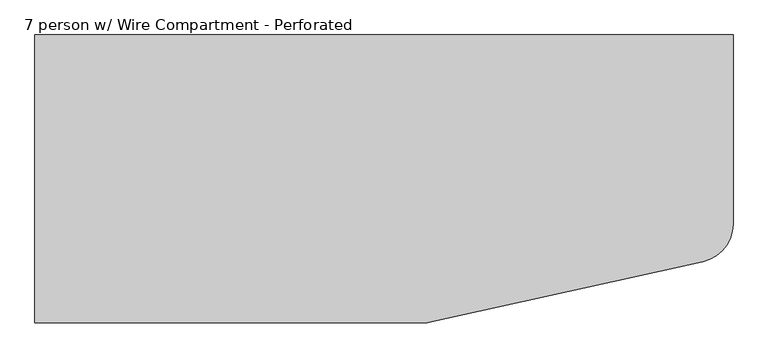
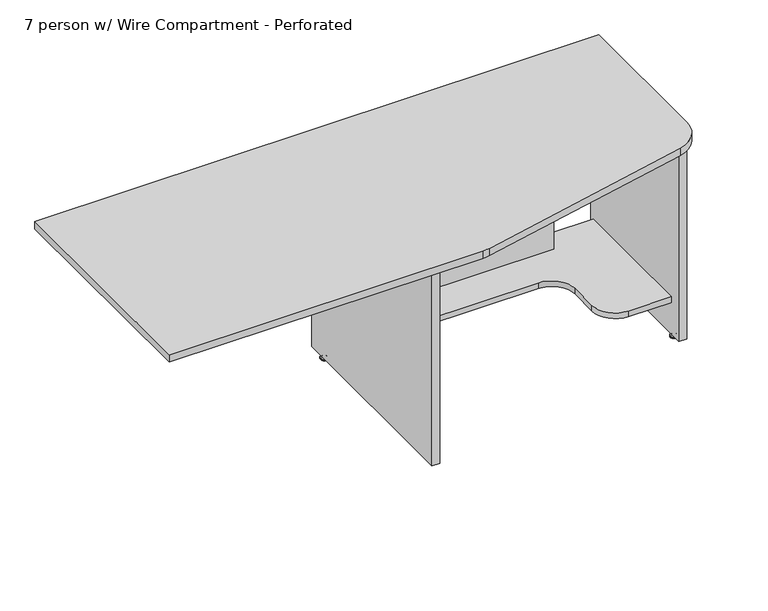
"""IFC4 building model written with IfcOpenShell, lengths in millimetres: furniture geometry, Nova Solutions - Collaboration Table - Boat_6-8 person : 7 person w/ Wire Compartment - Perforated."""

import ifcopenshell
import ifcopenshell.guid

model = None  # the IFC model being written
_history = None  # IfcOwnerHistory: only IFC2X3 demands one
_inside = {}  # id of a spatial element -> (the spatial element, [elements in it])
_under = {}  # id of a project, library or spatial element -> (it, [spatial elements below it])
_declared = {}  # id of a project -> (the project, [libraries it declares])
_typed = {}  # id of a type object -> (the type object, [elements of that type])
_made_of = {}  # id of a material, layer set ... -> (it, [elements and type objects made of it])


def new_model(schema):
    """Start an empty IFC model of exactly this schema.

    Asked for "IFC4X3", IfcOpenShell would pick the latest addendum, in which some entities
    have other attributes; the version numbers below select the first issue.
    IFC2X3 requires an IfcOwnerHistory on every rooted entity: one is made here for all.
    """
    global model, _history
    if schema == "IFC4X3":
        model = ifcopenshell.file(schema_version=(4, 3, 0, 0))
    else:
        model = ifcopenshell.file(schema=schema)
    _inside.clear()
    _under.clear()
    _declared.clear()
    _typed.clear()
    _made_of.clear()
    _history = None
    if model.schema == "IFC2X3":
        org = make("IfcOrganization", Name="unknown")
        user = make(
            "IfcPersonAndOrganization",
            ThePerson=make("IfcPerson", FamilyName="unknown"),
            TheOrganization=org,
        )
        app = make(
            "IfcApplication",
            ApplicationDeveloper=org,
            Version="unknown",
            ApplicationFullName="unknown",
            ApplicationIdentifier="unknown",
        )
        _history = make(
            "IfcOwnerHistory",
            OwningUser=user,
            OwningApplication=app,
            ChangeAction="ADDED",
            CreationDate=0,
        )
    return model


def make(cls, **values):
    """One entity of the class cls with the attributes given. An attribute that is None is left unset."""
    return model.create_entity(
        cls, **{name: value for name, value in values.items() if value is not None}
    )


def rooted(cls, **values):
    """An entity with a GlobalId (a new one), such as an element, a storey or a relation."""
    return make(cls, GlobalId=ifcopenshell.guid.new(), OwnerHistory=_history, **values)


def si_unit(unit_type, name, prefix=None):
    """IfcSIUnit, for example si_unit("LENGTHUNIT", "METRE", prefix="MILLI")."""
    return make("IfcSIUnit", UnitType=unit_type, Prefix=prefix, Name=name)


def assignment(units):
    """IfcUnitAssignment: the units of a project."""
    return None if units is None else make("IfcUnitAssignment", Units=units)


def point(xyz):
    """IfcCartesianPoint."""
    return None if xyz is None else make("IfcCartesianPoint", Coordinates=xyz)


def direction(xyz):
    """IfcDirection."""
    return None if xyz is None else make("IfcDirection", DirectionRatios=xyz)


def frame(location, z_axis=None, x_axis=None):
    """IfcAxis2Placement3D, a coordinate frame: its origin and axes. An axis left out is left unset."""
    return make(
        "IfcAxis2Placement3D",
        Location=point(location),
        Axis=direction(z_axis),
        RefDirection=direction(x_axis),
    )


def frame_2d(location, x_axis=None):
    """IfcAxis2Placement2D, a coordinate frame in the plane: its origin and x axis."""
    return make(
        "IfcAxis2Placement2D", Location=point(location), RefDirection=direction(x_axis)
    )


def origin():
    """The frame at (0, 0, 0) with its axes left unset."""
    return frame((0.0, 0.0, 0.0))


def place(relative_to, where):
    """IfcLocalPlacement: puts the frame where relative to a parent placement (None: the world)."""
    return make(
        "IfcLocalPlacement", PlacementRelTo=relative_to, RelativePlacement=where
    )


def context(
    kind, dimensions, precision=None, world=None, true_north=None, identifier=None
):
    """IfcGeometricRepresentationContext, for example the 3D "Model" context."""
    return make(
        "IfcGeometricRepresentationContext",
        ContextIdentifier=identifier,
        ContextType=kind,
        CoordinateSpaceDimension=dimensions,
        Precision=precision,
        WorldCoordinateSystem=world,
        TrueNorth=true_north,
    )


def project(units=None, contexts=None):
    """IfcProject with its units and contexts."""
    return rooted(
        "IfcProject",
        Name="project",
        RepresentationContexts=contexts,
        UnitsInContext=assignment(units),
    )


def spatial(cls, under=None, at=None, **own):
    """A site, building, storey or space (cls), placed at a placement, below another one or the project."""
    s = rooted(cls, ObjectPlacement=at, **own)
    if under is not None:
        _under.setdefault(under.id(), (under, []))[1].append(s)
    return s


def polyline(points):
    """IfcPolyline through the points."""
    return make("IfcPolyline", Points=[point(p) for p in points])


def circle_curve(where, radius):
    """IfcCircle in the frame where."""
    return make("IfcCircle", Position=where, Radius=radius)


def ellipse_curve(where, semi_axis1, semi_axis2):
    """IfcEllipse in the frame where."""
    return make(
        "IfcEllipse", Position=where, SemiAxis1=semi_axis1, SemiAxis2=semi_axis2
    )


def trimmed(basis, trim1, trim2, sense, master):
    """IfcTrimmedCurve: the piece of a basis curve between two trims."""
    return make(
        "IfcTrimmedCurve",
        BasisCurve=basis,
        Trim1=trim1,
        Trim2=trim2,
        SenseAgreement=sense,
        MasterRepresentation=master,
    )


def segment(curve, same_sense, transition):
    """IfcCompositeCurveSegment."""
    return make(
        "IfcCompositeCurveSegment",
        Transition=transition,
        SameSense=same_sense,
        ParentCurve=curve,
    )


def composite_curve(segments, self_intersect=None):
    """IfcCompositeCurve: segments joined end to end."""
    return make("IfcCompositeCurve", Segments=segments, SelfIntersect=self_intersect)


def outline(outer, holes=None, kind="AREA"):
    """IfcArbitraryClosedProfileDef: a profile drawn as a closed curve; with holes, ...WithVoids."""
    if holes is None:
        return make("IfcArbitraryClosedProfileDef", ProfileType=kind, OuterCurve=outer)
    return make(
        "IfcArbitraryProfileDefWithVoids",
        ProfileType=kind,
        OuterCurve=outer,
        InnerCurves=holes,
    )


def extrude(swept, where, along, depth):
    """IfcExtrudedAreaSolid: the profile swept, set in the frame where, extruded along a direction by depth."""
    return make(
        "IfcExtrudedAreaSolid",
        SweptArea=swept,
        Position=where,
        ExtrudedDirection=direction(along),
        Depth=depth,
    )


def shape(context_of_items, identifier, shape_type, items):
    """IfcShapeRepresentation: the items that make up one representation, for example the "Body"."""
    return make(
        "IfcShapeRepresentation",
        ContextOfItems=context_of_items,
        RepresentationIdentifier=identifier,
        RepresentationType=shape_type,
        Items=items,
    )


def source(mapping_origin, context_of_items, identifier, shape_type, items):
    """IfcRepresentationMap: a shape defined once, which mapped items show again and again."""
    return make(
        "IfcRepresentationMap",
        MappingOrigin=mapping_origin,
        MappedRepresentation=shape(context_of_items, identifier, shape_type, items),
    )


def transform(
    local_origin,
    x_axis=None,
    y_axis=None,
    z_axis=None,
    scale=None,
    scale2=None,
    scale3=None,
    uniform=True,
):
    """IfcCartesianTransformationOperator3D, or its non-uniform kind. x_axis, y_axis, z_axis: its Axis1, 2, 3."""
    if uniform:
        return make(
            "IfcCartesianTransformationOperator3D",
            Axis1=direction(x_axis),
            Axis2=direction(y_axis),
            LocalOrigin=point(local_origin),
            Scale=scale,
            Axis3=direction(z_axis),
        )
    return make(
        "IfcCartesianTransformationOperator3DnonUniform",
        Axis1=direction(x_axis),
        Axis2=direction(y_axis),
        LocalOrigin=point(local_origin),
        Scale=scale,
        Axis3=direction(z_axis),
        Scale2=scale2,
        Scale3=scale3,
    )


def mapped(mapping_source, mapping_target):
    """IfcMappedItem: shows the shape of a source again, moved by a transform."""
    return make(
        "IfcMappedItem", MappingSource=mapping_source, MappingTarget=mapping_target
    )


def made_of(thing, what):
    """Note that an element or type object is made of a material, layer set ...; save() writes the relation."""
    if what is not None:
        _made_of.setdefault(what.id(), (what, []))[1].append(thing)
    return thing


def element(
    cls,
    number,
    at=None,
    inside=None,
    cuts=None,
    type_object=None,
    material=None,
    context=None,
    identifier="Body",
    shape_type=None,
    held_by="IfcProductDefinitionShape",
    body=None,
    shapes=None,
    **own,
):
    """One element of the class cls, such as IfcWall. Its Tag is "e" and its number.

    at: its placement. inside: the storey or other place that contains it. cuts: it is an
    opening in that element (IfcRelVoidsElement). A single representation is given by context,
    identifier, shape_type and body (its items); several are given by shapes. held_by: the class
    of the entity that holds the representations. save() writes the other relations.
    """
    e = rooted(cls, Tag="e%d" % number, ObjectPlacement=at, **own)
    if body is not None:
        shapes = [shape(context, identifier, shape_type, body)]
    if shapes is not None:
        e.Representation = make(held_by, Representations=shapes)
    if inside is not None:
        _inside.setdefault(inside.id(), (inside, []))[1].append(e)
    if cuts is not None:
        rooted(
            "IfcRelVoidsElement", RelatingBuildingElement=cuts, RelatedOpeningElement=e
        )
    if type_object is not None:
        _typed.setdefault(type_object.id(), (type_object, []))[1].append(e)
    return made_of(e, material)


def aggregate(whole, parts):
    """IfcRelAggregates: a whole, such as a stair, and the parts it consists of."""
    return rooted("IfcRelAggregates", RelatingObject=whole, RelatedObjects=parts)


def save(model, path):
    """Write the relations noted so far, then the file.

    IfcRelAggregates (storeys below a building ...), IfcRelContainedInSpatialStructure (elements
    in a storey), IfcRelDefinesByType, IfcRelAssociatesMaterial and IfcRelDeclares: one each for
    every whole, place, type object, material and project.
    """
    for whole, parts in _under.values():
        aggregate(whole, parts)
    for where, things in _inside.values():
        rooted(
            "IfcRelContainedInSpatialStructure",
            RelatedElements=things,
            RelatingStructure=where,
        )
    for kind, things in _typed.values():
        rooted("IfcRelDefinesByType", RelatedObjects=things, RelatingType=kind)
    for what, things in _made_of.values():
        rooted("IfcRelAssociatesMaterial", RelatedObjects=things, RelatingMaterial=what)
    for by, libraries in _declared.values():
        rooted("IfcRelDeclares", RelatingContext=by, RelatedDefinitions=libraries)
    model.write(path)


def plane_surface(at):
    """IfcPlane: the flat surface through the origin of the frame at, square to its z axis."""
    return make("IfcPlane", Position=at)


def cylinder_surface(at, radius):
    """IfcCylindricalSurface: all points at the distance radius from the z axis of the frame at."""
    return make("IfcCylindricalSurface", Position=at, Radius=radius)


def revolved_surface(curve, axis_point, axis_direction):
    """IfcSurfaceOfRevolution: the curve turned about the line through axis_point along axis_direction."""
    return make(
        "IfcSurfaceOfRevolution",
        SweptCurve=make("IfcArbitraryOpenProfileDef", ProfileType="CURVE", Curve=curve),
        AxisPosition=make("IfcAxis1Placement", Location=point(axis_point), Axis=direction(axis_direction)),
    )


def advanced_brep(points, edges, surfaces, faces):
    """IfcAdvancedBrep: a solid bounded by faces that lie on surfaces and meet in shared edges.

    An edge is (start, end): straight between two places in points (the first is 0);
    or (start, end, curve); or (start, end, curve, False) where it runs against its curve.
    A face is (place in surfaces, loops), or (place, loops, False) where it looks against
    its surface's normal. A loop lists edges by number (the first is 1), with a minus sign
    where the edge is run from its end to its start. The first loop is the outer one.
    """
    corners = [point(p) for p in points]
    vertices = [make("IfcVertexPoint", VertexGeometry=c) for c in corners]
    made = []
    for start, end, *more in edges:
        made.append(
            make(
                "IfcEdgeCurve",
                EdgeStart=vertices[start],
                EdgeEnd=vertices[end],
                EdgeGeometry=more[0] if more else make("IfcPolyline", Points=[corners[start], corners[end]]),
                SameSense=more[1] if len(more) > 1 else True,
            )
        )
    hull = []
    for where, loops, *sense in faces:
        bounds = []
        for j, loop in enumerate(loops):
            ring = [make("IfcOrientedEdge", EdgeElement=made[abs(k) - 1], Orientation=k > 0) for k in loop]
            bounds.append(
                make(
                    "IfcFaceOuterBound" if j == 0 else "IfcFaceBound",
                    Bound=make("IfcEdgeLoop", EdgeList=ring),
                    Orientation=True,
                )
            )
        hull.append(make("IfcAdvancedFace", Bounds=bounds, FaceSurface=surfaces[where], SameSense=sense[0] if sense else True))
    return make("IfcAdvancedBrep", Outer=make("IfcClosedShell", CfsFaces=hull))


def furniture_7_person_w_wire_compartment_perforated_2ec6243c(model_context):
    return source(origin(), model_context, "Body", "SolidModel", [
        advanced_brep(
        [(6.6776506, -50.4140625, 11.1125), (-6.6776506, -50.4140625, 11.1125), (0.0, -50.4140625, 11.1125), (6.6776506, -50.4140625, 9.525), (-6.6776506, -50.4140625, 9.525), (11.8855135, -50.4140625, 4.7748687), (-11.8855135, -50.4140625, 4.7748687), (12.7466506, -50.4140625, 3.989419), (-12.7466506, -50.4140625, 3.989419), (12.7466506, -50.4140625, 3.175), (-12.7466506, -50.4140625, 3.175), (11.8959119, -50.4140625, 0.0), (-11.8959119, -50.4140625, 0.0), (0.0, -50.4140625, 0.0)],
        [
            (0, 1, circle_curve(frame((0.0, -50.4140625, 11.1125), z_axis=(0.0, 0.0, 1.0), x_axis=(-1.0, 0.0, 0.0)), 6.6776506)),
            (1, 2),
            (2, 0),
            (1, 0, circle_curve(frame((0.0, -50.4140625, 11.1125), z_axis=(0.0, 0.0, 1.0), x_axis=(-1.0, 0.0, 0.0)), 6.6776506)),
            (3, 4, circle_curve(frame((0.0, -50.4140625, 9.525), z_axis=(0.0, 0.0, 1.0), x_axis=(-1.0, 0.0, 0.0)), 6.6776506)),
            (4, 1),
            (0, 3),
            (4, 3, circle_curve(frame((0.0, -50.4140625, 9.525), z_axis=(0.0, 0.0, 1.0), x_axis=(-1.0, 0.0, 0.0)), 6.6776506)),
            (5, 6, circle_curve(frame((0.0, -50.4140625, 4.7748687), z_axis=(0.0, 0.0, 1.0), x_axis=(-1.0, 0.0, 0.0)), 11.8855135)),
            (6, 4, circle_curve(frame((-12.9320627, -50.4140625, 11.1521822), z_axis=(0.0, -1.0, 0.0), x_axis=(1.0, 0.0, 0.0)), 6.462615)),
            (3, 5, circle_curve(frame((12.9320627, -50.4140625, 11.1521822), z_axis=(0.0, -1.0, 0.0), x_axis=(-1.0, 0.0, 0.0)), 6.462615)),
            (6, 5, circle_curve(frame((0.0, -50.4140625, 4.7748687), z_axis=(0.0, 0.0, 1.0), x_axis=(-1.0, 0.0, 0.0)), 11.8855135)),
            (7, 8, circle_curve(frame((0.0, -50.4140625, 3.989419), z_axis=(0.0, 0.0, 1.0), x_axis=(-1.0, 0.0, 0.0)), 12.7466506)),
            (8, 6, circle_curve(frame((-11.7124632, -50.4140625, 3.7203591), z_axis=(0.0, 1.0, 0.0), x_axis=(1.0, 0.0, 0.0)), 1.0686145)),
            (5, 7, circle_curve(frame((11.7124632, -50.4140625, 3.7203591), z_axis=(0.0, 1.0, 0.0), x_axis=(-1.0, 0.0, 0.0)), 1.0686145)),
            (8, 7, circle_curve(frame((0.0, -50.4140625, 3.989419), z_axis=(0.0, 0.0, 1.0), x_axis=(-1.0, 0.0, 0.0)), 12.7466506)),
            (9, 10, circle_curve(frame((0.0, -50.4140625, 3.175), z_axis=(0.0, 0.0, 1.0), x_axis=(-1.0, 0.0, 0.0)), 12.7466506)),
            (10, 8),
            (7, 9),
            (10, 9, circle_curve(frame((0.0, -50.4140625, 3.175), z_axis=(0.0, 0.0, 1.0), x_axis=(-1.0, 0.0, 0.0)), 12.7466506)),
            (11, 12, circle_curve(frame((0.0, -50.4140625, 0.0), z_axis=(0.0, 0.0, 1.0), x_axis=(-1.0, 0.0, 0.0)), 11.8959119)),
            (12, 10),
            (9, 11),
            (12, 11, circle_curve(frame((0.0, -50.4140625, 0.0), z_axis=(0.0, 0.0, 1.0), x_axis=(-1.0, 0.0, 0.0)), 11.8959119)),
            (13, 12),
            (11, 13),
        ],
        [
            plane_surface(frame((0.0, -50.4140625, 11.1125), z_axis=(0.0, 0.0, 1.0), x_axis=(-1.0, 0.0, 0.0))),
            cylinder_surface(frame((0.0, -50.4140625, 43.2095994), z_axis=(0.0, 0.0, -1.0), x_axis=(-1.0, 0.0, 0.0)), 6.6776506),
            revolved_surface(trimmed(ellipse_curve(frame((-12.9320627, -50.4140625, 11.1521822), z_axis=(0.0, 1.0, 0.0), x_axis=(1.0, 0.0, 0.0)), 6.462615, 6.462615), [point((-6.6776506, -50.4140625, 9.525))], [point((-11.8855135, -50.4140625, 4.7748687))], True, "CARTESIAN"), (0.0, -50.4140625, 43.2095994), (0.0, 0.0, -1.0)),
            revolved_surface(trimmed(ellipse_curve(frame((-11.7124632, -50.4140625, 3.7203591), z_axis=(0.0, -1.0, 0.0), x_axis=(1.0, 0.0, 0.0)), 1.0686145, 1.0686145), [point((-11.8855135, -50.4140625, 4.7748687))], [point((-12.7466506, -50.4140625, 3.989419))], True, "CARTESIAN"), (0.0, -50.4140625, 43.2095994), (0.0, 0.0, -1.0)),
            cylinder_surface(frame((0.0, -50.4140625, 43.2095994), z_axis=(0.0, 0.0, -1.0), x_axis=(-1.0, 0.0, 0.0)), 12.7466506),
            revolved_surface(polyline([(-12.7466506, -50.4140625, 3.175), (-11.8959119, -50.4140625, 0.0)]), (0.0, -50.4140625, 43.2095994), (0.0, 0.0, -1.0)),
            plane_surface(frame((0.0, -50.4140625, 0.0), z_axis=(0.0, 0.0, -1.0), x_axis=(-1.0, 0.0, 0.0))),
        ],
        [
            (0, [[1, 2, 3]]),
            (0, [[4, -3, -2]]),
            (1, [[5, 6, -1, 7]]),
            (1, [[8, -7, -4, -6]]),
            (2, [[9, 10, -5, 11]]),
            (2, [[12, -11, -8, -10]]),
            (3, [[13, 14, -9, 15]]),
            (3, [[16, -15, -12, -14]]),
            (4, [[17, 18, -13, 19]]),
            (4, [[20, -19, -16, -18]]),
            (5, [[21, 22, -17, 23]]),
            (5, [[24, -23, -20, -22]]),
            (6, [[25, -21, 26]]),
            (6, [[-26, -24, -25]]),
        ],
    ),
        extrude(outline(polyline([(12.85, -1.4), (12.85, -680.4), (-12.85, -680.4), (-12.85, -1.4), (12.85, -1.4)])), frame((0.0, 0.0, 15.6), z_axis=(0.0, 0.0, 1.0), x_axis=(1.0, 0.0, 0.0)), (0.0, 0.0, 1.0), 720.7),
        extrude(outline(polyline([(145.5, 12.85), (145.5, 726.15), (507.4, 726.15), (507.4, 897.15), (736.3, 897.15), (736.3, 12.85), (145.5, 12.85)])), frame((0.0, -88.6, 0.0), z_axis=(0.0, 1.0, 0.0), x_axis=(0.0, 0.0, 1.0)), (0.0, 0.0, 1.0), 19.2),
        extrude(outline(composite_curve([segment(polyline([(897.15, -457.2625), (757.35, -457.2625)]), True, "CONTINUOUS"), segment(trimmed(circle_curve(frame_2d((757.35, -381.0625)), 76.2), [point((757.35, -457.2625))], [point((681.15, -381.0625))], False, "CARTESIAN"), True, "CONTINUOUS"), segment(polyline([(681.15, -381.0625), (681.15, -286.6)]), True, "CONTINUOUS"), segment(trimmed(circle_curve(frame_2d((604.95, -286.6)), 76.2), [point((681.15, -286.6))], [point((604.95, -210.4))], True, "CARTESIAN"), True, "CONTINUOUS"), segment(polyline([(604.95, -210.4), (12.85, -210.4), (12.85, -14.1), (897.15, -14.1), (897.15, -457.2625)]), True, "CONTINUOUS")], self_intersect=False)), frame((0.0, 0.0, 126.3), z_axis=(0.0, 0.0, 1.0), x_axis=(1.0, 0.0, 0.0)), (0.0, 0.0, 1.0), 19.2),
        advanced_brep(
        [(916.6776506, -448.9859375, 11.1125), (903.3223494, -448.9859375, 11.1125), (910.0, -448.9859375, 11.1125), (916.6776506, -448.9859375, 9.525), (903.3223494, -448.9859375, 9.525), (921.8855135, -448.9859375, 4.7748687), (898.1144865, -448.9859375, 4.7748687), (922.7466506, -448.9859375, 3.989419), (897.2533494, -448.9859375, 3.989419), (922.7466506, -448.9859375, 3.175), (897.2533494, -448.9859375, 3.175), (921.8959119, -448.9859375, 0.0), (898.1040881, -448.9859375, 0.0), (910.0, -448.9859375, 0.0)],
        [
            (0, 1, circle_curve(frame((910.0, -448.9859375, 11.1125), z_axis=(0.0, 0.0, 1.0), x_axis=(-1.0, 0.0, 0.0)), 6.6776506)),
            (1, 2),
            (2, 0),
            (1, 0, circle_curve(frame((910.0, -448.9859375, 11.1125), z_axis=(0.0, 0.0, 1.0), x_axis=(-1.0, 0.0, 0.0)), 6.6776506)),
            (3, 4, circle_curve(frame((910.0, -448.9859375, 9.525), z_axis=(0.0, 0.0, 1.0), x_axis=(-1.0, 0.0, 0.0)), 6.6776506)),
            (4, 1),
            (0, 3),
            (4, 3, circle_curve(frame((910.0, -448.9859375, 9.525), z_axis=(0.0, 0.0, 1.0), x_axis=(-1.0, 0.0, 0.0)), 6.6776506)),
            (5, 6, circle_curve(frame((910.0, -448.9859375, 4.7748687), z_axis=(0.0, 0.0, 1.0), x_axis=(-1.0, 0.0, 0.0)), 11.8855135)),
            (6, 4, circle_curve(frame((897.0679373, -448.9859375, 11.1521822), z_axis=(0.0, -1.0, 0.0), x_axis=(1.0, 0.0, 0.0)), 6.462615)),
            (3, 5, circle_curve(frame((922.9320627, -448.9859375, 11.1521822), z_axis=(0.0, -1.0, 0.0), x_axis=(-1.0, 0.0, 0.0)), 6.462615)),
            (6, 5, circle_curve(frame((910.0, -448.9859375, 4.7748687), z_axis=(0.0, 0.0, 1.0), x_axis=(-1.0, 0.0, 0.0)), 11.8855135)),
            (7, 8, circle_curve(frame((910.0, -448.9859375, 3.989419), z_axis=(0.0, 0.0, 1.0), x_axis=(-1.0, 0.0, 0.0)), 12.7466506)),
            (8, 6, circle_curve(frame((898.2875368, -448.9859375, 3.7203591), z_axis=(0.0, 1.0, 0.0), x_axis=(1.0, 0.0, 0.0)), 1.0686145)),
            (5, 7, circle_curve(frame((921.7124632, -448.9859375, 3.7203591), z_axis=(0.0, 1.0, 0.0), x_axis=(-1.0, 0.0, 0.0)), 1.0686145)),
            (8, 7, circle_curve(frame((910.0, -448.9859375, 3.989419), z_axis=(0.0, 0.0, 1.0), x_axis=(-1.0, 0.0, 0.0)), 12.7466506)),
            (9, 10, circle_curve(frame((910.0, -448.9859375, 3.175), z_axis=(0.0, 0.0, 1.0), x_axis=(-1.0, 0.0, 0.0)), 12.7466506)),
            (10, 8),
            (7, 9),
            (10, 9, circle_curve(frame((910.0, -448.9859375, 3.175), z_axis=(0.0, 0.0, 1.0), x_axis=(-1.0, 0.0, 0.0)), 12.7466506)),
            (11, 12, circle_curve(frame((910.0, -448.9859375, 0.0), z_axis=(0.0, 0.0, 1.0), x_axis=(-1.0, 0.0, 0.0)), 11.8959119)),
            (12, 10),
            (9, 11),
            (12, 11, circle_curve(frame((910.0, -448.9859375, 0.0), z_axis=(0.0, 0.0, 1.0), x_axis=(-1.0, 0.0, 0.0)), 11.8959119)),
            (13, 12),
            (11, 13),
        ],
        [
            plane_surface(frame((910.0, -448.9859375, 11.1125), z_axis=(0.0, 0.0, 1.0), x_axis=(-1.0, 0.0, 0.0))),
            cylinder_surface(frame((910.0, -448.9859375, 43.2095994), z_axis=(0.0, 0.0, -1.0), x_axis=(-1.0, 0.0, 0.0)), 6.6776506),
            revolved_surface(trimmed(ellipse_curve(frame((897.0679373, -448.9859375, 11.1521822), z_axis=(0.0, 1.0, 0.0), x_axis=(1.0, 0.0, 0.0)), 6.462615, 6.462615), [point((903.3223494, -448.9859375, 9.525))], [point((898.1144865, -448.9859375, 4.7748687))], True, "CARTESIAN"), (910.0, -448.9859375, 43.2095994), (0.0, 0.0, -1.0)),
            revolved_surface(trimmed(ellipse_curve(frame((898.2875368, -448.9859375, 3.7203591), z_axis=(0.0, -1.0, 0.0), x_axis=(1.0, 0.0, 0.0)), 1.0686145, 1.0686145), [point((898.1144865, -448.9859375, 4.7748687))], [point((897.2533494, -448.9859375, 3.989419))], True, "CARTESIAN"), (910.0, -448.9859375, 43.2095994), (0.0, 0.0, -1.0)),
            cylinder_surface(frame((910.0, -448.9859375, 43.2095994), z_axis=(0.0, 0.0, -1.0), x_axis=(-1.0, 0.0, 0.0)), 12.7466506),
            revolved_surface(polyline([(897.2533494, -448.9859375, 3.175), (898.1040881, -448.9859375, 0.0)]), (910.0, -448.9859375, 43.2095994), (0.0, 0.0, -1.0)),
            plane_surface(frame((910.0, -448.9859375, 0.0), z_axis=(0.0, 0.0, -1.0), x_axis=(-1.0, 0.0, 0.0))),
        ],
        [
            (0, [[1, 2, 3]]),
            (0, [[4, -3, -2]]),
            (1, [[5, 6, -1, 7]]),
            (1, [[8, -7, -4, -6]]),
            (2, [[9, 10, -5, 11]]),
            (2, [[12, -11, -8, -10]]),
            (3, [[13, 14, -9, 15]]),
            (3, [[16, -15, -12, -14]]),
            (4, [[17, 18, -13, 19]]),
            (4, [[20, -19, -16, -18]]),
            (5, [[21, 22, -17, 23]]),
            (5, [[24, -23, -20, -22]]),
            (6, [[25, -21, 26]]),
            (6, [[-26, -24, -25]]),
        ],
    ),
        advanced_brep(
        [(916.6776506, -50.4140625, 11.1125), (903.3223494, -50.4140625, 11.1125), (910.0, -50.4140625, 11.1125), (916.6776506, -50.4140625, 9.525), (903.3223494, -50.4140625, 9.525), (921.8855135, -50.4140625, 4.7748687), (898.1144865, -50.4140625, 4.7748687), (922.7466506, -50.4140625, 3.989419), (897.2533494, -50.4140625, 3.989419), (922.7466506, -50.4140625, 3.175), (897.2533494, -50.4140625, 3.175), (921.8959119, -50.4140625, 0.0), (898.1040881, -50.4140625, 0.0), (910.0, -50.4140625, 0.0)],
        [
            (0, 1, circle_curve(frame((910.0, -50.4140625, 11.1125), z_axis=(0.0, 0.0, 1.0), x_axis=(-1.0, 0.0, 0.0)), 6.6776506)),
            (1, 2),
            (2, 0),
            (1, 0, circle_curve(frame((910.0, -50.4140625, 11.1125), z_axis=(0.0, 0.0, 1.0), x_axis=(-1.0, 0.0, 0.0)), 6.6776506)),
            (3, 4, circle_curve(frame((910.0, -50.4140625, 9.525), z_axis=(0.0, 0.0, 1.0), x_axis=(-1.0, 0.0, 0.0)), 6.6776506)),
            (4, 1),
            (0, 3),
            (4, 3, circle_curve(frame((910.0, -50.4140625, 9.525), z_axis=(0.0, 0.0, 1.0), x_axis=(-1.0, 0.0, 0.0)), 6.6776506)),
            (5, 6, circle_curve(frame((910.0, -50.4140625, 4.7748687), z_axis=(0.0, 0.0, 1.0), x_axis=(-1.0, 0.0, 0.0)), 11.8855135)),
            (6, 4, circle_curve(frame((897.0679373, -50.4140625, 11.1521822), z_axis=(0.0, -1.0, 0.0), x_axis=(1.0, 0.0, 0.0)), 6.462615)),
            (3, 5, circle_curve(frame((922.9320627, -50.4140625, 11.1521822), z_axis=(0.0, -1.0, 0.0), x_axis=(-1.0, 0.0, 0.0)), 6.462615)),
            (6, 5, circle_curve(frame((910.0, -50.4140625, 4.7748687), z_axis=(0.0, 0.0, 1.0), x_axis=(-1.0, 0.0, 0.0)), 11.8855135)),
            (7, 8, circle_curve(frame((910.0, -50.4140625, 3.989419), z_axis=(0.0, 0.0, 1.0), x_axis=(-1.0, 0.0, 0.0)), 12.7466506)),
            (8, 6, circle_curve(frame((898.2875368, -50.4140625, 3.7203591), z_axis=(0.0, 1.0, 0.0), x_axis=(1.0, 0.0, 0.0)), 1.0686145)),
            (5, 7, circle_curve(frame((921.7124632, -50.4140625, 3.7203591), z_axis=(0.0, 1.0, 0.0), x_axis=(-1.0, 0.0, 0.0)), 1.0686145)),
            (8, 7, circle_curve(frame((910.0, -50.4140625, 3.989419), z_axis=(0.0, 0.0, 1.0), x_axis=(-1.0, 0.0, 0.0)), 12.7466506)),
            (9, 10, circle_curve(frame((910.0, -50.4140625, 3.175), z_axis=(0.0, 0.0, 1.0), x_axis=(-1.0, 0.0, 0.0)), 12.7466506)),
            (10, 8),
            (7, 9),
            (10, 9, circle_curve(frame((910.0, -50.4140625, 3.175), z_axis=(0.0, 0.0, 1.0), x_axis=(-1.0, 0.0, 0.0)), 12.7466506)),
            (11, 12, circle_curve(frame((910.0, -50.4140625, 0.0), z_axis=(0.0, 0.0, 1.0), x_axis=(-1.0, 0.0, 0.0)), 11.8959119)),
            (12, 10),
            (9, 11),
            (12, 11, circle_curve(frame((910.0, -50.4140625, 0.0), z_axis=(0.0, 0.0, 1.0), x_axis=(-1.0, 0.0, 0.0)), 11.8959119)),
            (13, 12),
            (11, 13),
        ],
        [
            plane_surface(frame((910.0, -50.4140625, 11.1125), z_axis=(0.0, 0.0, 1.0), x_axis=(-1.0, 0.0, 0.0))),
            cylinder_surface(frame((910.0, -50.4140625, 43.2095994), z_axis=(0.0, 0.0, -1.0), x_axis=(-1.0, 0.0, 0.0)), 6.6776506),
            revolved_surface(trimmed(ellipse_curve(frame((897.0679373, -50.4140625, 11.1521822), z_axis=(0.0, 1.0, 0.0), x_axis=(1.0, 0.0, 0.0)), 6.462615, 6.462615), [point((903.3223494, -50.4140625, 9.525))], [point((898.1144865, -50.4140625, 4.7748687))], True, "CARTESIAN"), (910.0, -50.4140625, 43.2095994), (0.0, 0.0, -1.0)),
            revolved_surface(trimmed(ellipse_curve(frame((898.2875368, -50.4140625, 3.7203591), z_axis=(0.0, -1.0, 0.0), x_axis=(1.0, 0.0, 0.0)), 1.0686145, 1.0686145), [point((898.1144865, -50.4140625, 4.7748687))], [point((897.2533494, -50.4140625, 3.989419))], True, "CARTESIAN"), (910.0, -50.4140625, 43.2095994), (0.0, 0.0, -1.0)),
            cylinder_surface(frame((910.0, -50.4140625, 43.2095994), z_axis=(0.0, 0.0, -1.0), x_axis=(-1.0, 0.0, 0.0)), 12.7466506),
            revolved_surface(polyline([(897.2533494, -50.4140625, 3.175), (898.1040881, -50.4140625, 0.0)]), (910.0, -50.4140625, 43.2095994), (0.0, 0.0, -1.0)),
            plane_surface(frame((910.0, -50.4140625, 0.0), z_axis=(0.0, 0.0, -1.0), x_axis=(-1.0, 0.0, 0.0))),
        ],
        [
            (0, [[1, 2, 3]]),
            (0, [[4, -3, -2]]),
            (1, [[5, 6, -1, 7]]),
            (1, [[8, -7, -4, -6]]),
            (2, [[9, 10, -5, 11]]),
            (2, [[12, -11, -8, -10]]),
            (3, [[13, 14, -9, 15]]),
            (3, [[16, -15, -12, -14]]),
            (4, [[17, 18, -13, 19]]),
            (4, [[20, -19, -16, -18]]),
            (5, [[21, 22, -17, 23]]),
            (5, [[24, -23, -20, -22]]),
            (6, [[25, -21, 26]]),
            (6, [[-26, -24, -25]]),
        ],
    ),
        extrude(outline(polyline([(922.85, -1.4), (922.85, -498.0), (897.15, -498.0), (897.15, -1.4), (922.85, -1.4)])), frame((0.0, 0.0, 15.6), z_axis=(0.0, 0.0, 1.0), x_axis=(1.0, 0.0, 0.0)), (0.0, 0.0, 1.0), 720.7),
        extrude(outline(composite_curve([segment(polyline([(108.0350272, -758.0), (-914.276, -758.0), (-914.276, 0.0), (924.25, 0.0), (924.25, -497.9736747)]), True, "CONTINUOUS"), segment(trimmed(circle_curve(frame_2d((822.65, -497.9736747)), 101.6), [point((924.25, -497.9736747))], [point((844.6402648, -597.165349))], False, "CARTESIAN"), True, "CONTINUOUS"), segment(polyline([(844.6402648, -597.165349), (130.025292, -755.5916743)]), True, "CONTINUOUS"), segment(trimmed(circle_curve(frame_2d((108.0350272, -656.4)), 101.6), [point((130.025292, -755.5916743))], [point((108.0350272, -758.0))], False, "CARTESIAN"), True, "CONTINUOUS")], self_intersect=False)), frame((0.0, 0.0, 736.3), z_axis=(0.0, 0.0, 1.0), x_axis=(1.0, 0.0, 0.0)), (0.0, 0.0, 1.0), 25.7),
    ])


if __name__ == "__main__":
    model = new_model("IFC4")
    model_context = context("Model", 3, world=origin())
    ifc_project = project(units=[si_unit("LENGTHUNIT", "METRE", prefix="MILLI")], contexts=[model_context])
    site = spatial("IfcSite", under=ifc_project)
    building = spatial("IfcBuilding", under=site)
    placement = place(None, origin())
    furniture_7_person_w_wire_compartment_perforated_shape = furniture_7_person_w_wire_compartment_perforated_2ec6243c(model_context)
    element("IfcFurniture", 1, ObjectType="Nova Solutions - Collaboration Table - Boat_6-8 person : 7 person w/ Wire Compartment - Perforated", at=placement, inside=building, context=model_context, shape_type="MappedRepresentation", body=[
        mapped(furniture_7_person_w_wire_compartment_perforated_shape, transform((0.0, 0.0, 0.0), x_axis=(1.0, 0.0, 0.0), y_axis=(0.0, 1.0, 0.0), z_axis=(0.0, 0.0, 1.0))),
    ])
    save(model, "model.ifc")
